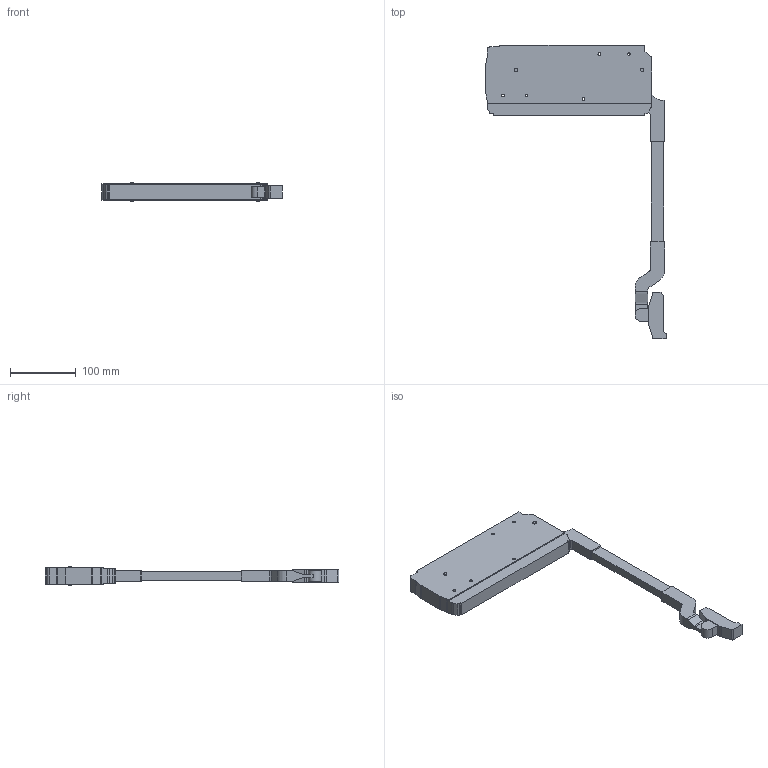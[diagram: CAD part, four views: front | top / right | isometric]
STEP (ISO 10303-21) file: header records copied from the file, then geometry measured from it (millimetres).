
FILE_DESCRIPTION (( 'STEP AP214' ), '1' );
FILE_NAME ('ST04AL(M,H).STEP', '2021-04-10T05:18:34', ( 'Windows 蚚誧' ), ( '' ), 'SwSTEP 2.0', 'SolidWorks 2018', '' );
FILE_SCHEMA (( 'AUTOMOTIVE_DESIGN' ));
Length unit declared in the file: millimetre
Products named in the file (1): ST04AL(M,H)
Bounding box: 275.19 x 447.78 x 28.6 mm (x, y, z)
Volume: 777353 mm3; surface area: 102212.7 mm2
Topology: 1 solids, 1 shells, 126 faces, 351 edges, 234 vertices
Faces by surface type: plane 68, cylinder 58
Entity records: 4578 total; most frequent: DIRECTION 723, CARTESIAN_POINT 712, ORIENTED_EDGE 702, EDGE_CURVE 351, AXIS2_PLACEMENT_3D 245, VERTEX_POINT 234, LINE 233, VECTOR 233
